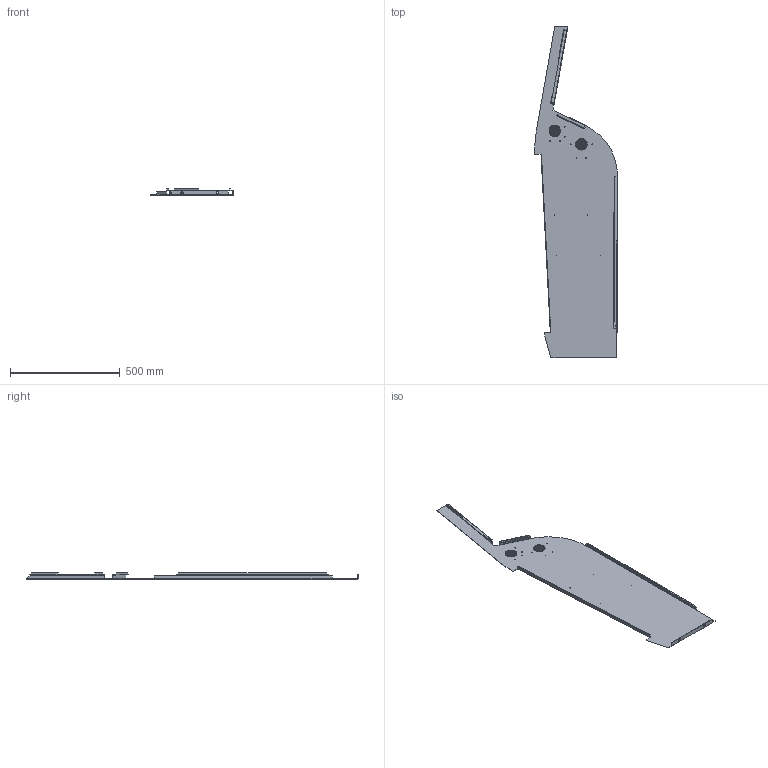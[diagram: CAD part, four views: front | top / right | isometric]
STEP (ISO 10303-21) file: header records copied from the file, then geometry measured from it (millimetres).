
FILE_DESCRIPTION(('STEP AP214'),'1');
FILE_NAME('le Ansys Spaceclaim.stp','2021-08-05T09:00:33',(' '),(' '),'Spatial InterOp 3D',' ',' ');
FILE_SCHEMA(('AUTOMOTIVE_DESIGN { 1 0 10303 214 1 1 1 1 }'));
Length unit declared in the file: metre
Products named in the file (1): Corps
Bounding box: 381.09 x 1514.11 x 30 mm (x, y, z)
Volume: 654657.8 mm3; surface area: 881173.7 mm2
Topology: 1 solids, 1 shells, 452 faces, 1314 edges, 864 vertices
Faces by surface type: cylinder 370, plane 75, bspline 7
Entity records: 16039 total; most frequent: DIRECTION 2944, CARTESIAN_POINT 2738, ORIENTED_EDGE 2628, EDGE_CURVE 1314, AXIS2_PLACEMENT_3D 1186, VERTEX_POINT 864, EDGE_LOOP 776, CIRCLE 712
